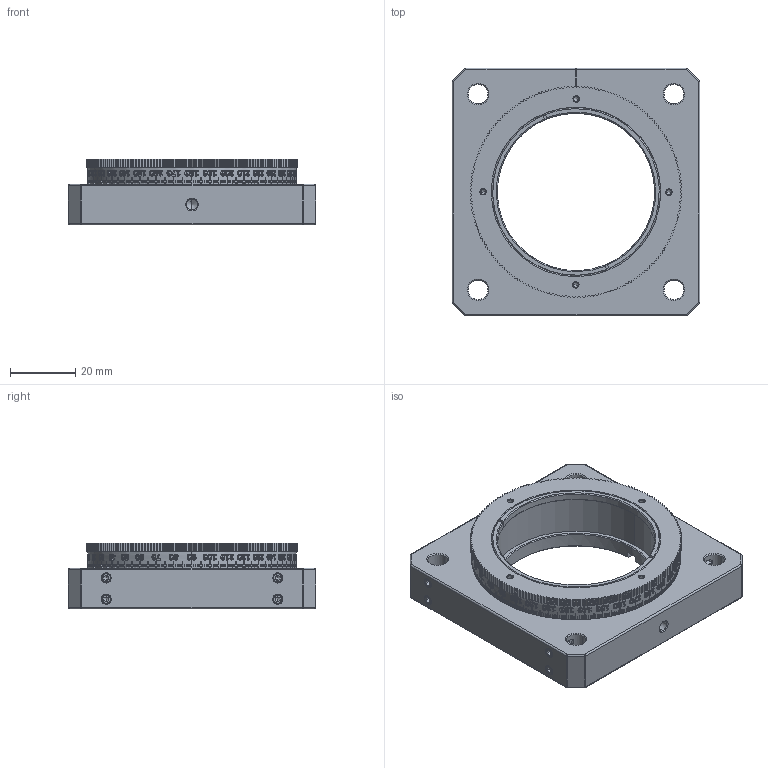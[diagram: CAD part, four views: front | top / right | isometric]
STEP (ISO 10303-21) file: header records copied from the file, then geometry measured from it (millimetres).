
FILE_DESCRIPTION (( 'STEP AP203' ), '1' );
FILE_NAME ('CSMR2-A.STEP', '2025-09-23T03:52:57', ( '' ), ( '' ), 'SwSTEP 2.0', 'SolidWorks 2023', '' );
FILE_SCHEMA (( 'CONFIG_CONTROL_DESIGN' ));
Products named in the file (7): CSMR2-A-1; SM2卡环; CSMR2-A; CSMR2-A-3; 内六角凹端紧定螺钉M4×6; 内六角凹端紧定螺钉M3×6; CSMR2-A-2
Assembly tree (13 placements, depth 2):
  CSMR2-A
    CSMR2-A-1
    CSMR2-A-2
    CSMR2-A-3
    内六角凹端紧定螺钉M3×6  x8
    内六角凹端紧定螺钉M4×6
    SM2卡环
Bounding box: 76 x 76 x 20.2 mm (x, y, z)
Volume: 54938.1 mm3; surface area: 28178.7 mm2
Topology: 13 solids, 13 shells, 4882 faces, 13917 edges, 9157 vertices
Faces by surface type: plane 2183, cylinder 1462, bspline 1036, cone 177, sphere 16, torus 8
Entity records: 275637 total; most frequent: CARTESIAN_POINT 157366, ORIENTED_EDGE 26958, DIRECTION 21311, EDGE_CURVE 13479, VERTEX_POINT 8933, AXIS2_PLACEMENT_3D 7407, LINE 6497, VECTOR 6497
